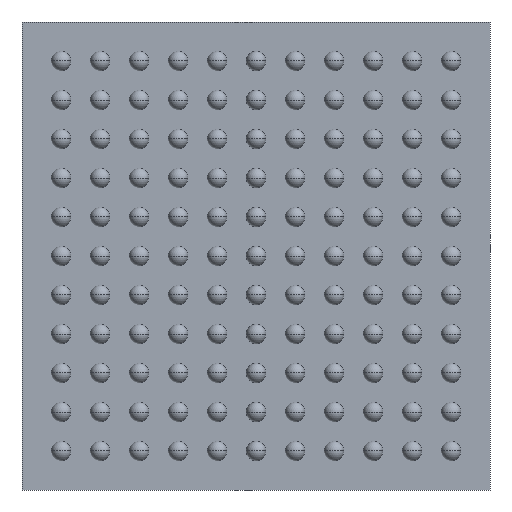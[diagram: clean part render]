
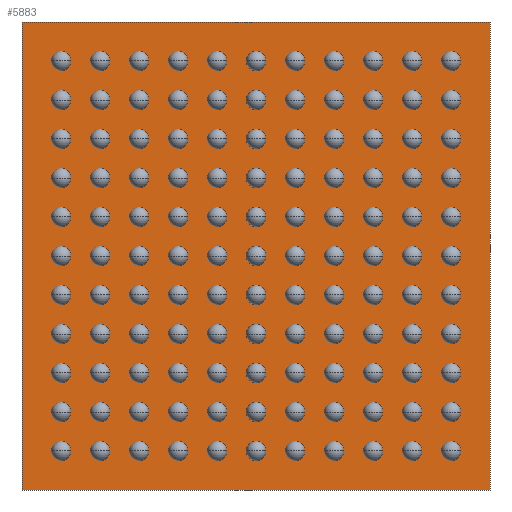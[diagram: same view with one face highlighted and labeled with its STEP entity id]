
A CAD part, front view. The second image highlights one B-rep face of the part: STEP entity #5883.
In plain terms, the highlighted planar face has unit normal (0, -1, 0).
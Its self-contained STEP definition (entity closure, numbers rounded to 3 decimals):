
#5736 = CARTESIAN_POINT ( 'NONE',  ( 3., 0.2, 3. ) ) ;
#5737 = CARTESIAN_POINT ( 'NONE',  ( 3., 0.2, -3. ) ) ;
#5740 = CARTESIAN_POINT ( 'NONE',  ( -3., 0.2, -3. ) ) ;
#5742 = CARTESIAN_POINT ( 'NONE',  ( -3., 0.2, 3. ) ) ;
#5744 = VERTEX_POINT ( 'NONE', #5736 ) ;
#5745 = VERTEX_POINT ( 'NONE', #5737 ) ;
#5748 = VERTEX_POINT ( 'NONE', #5740 ) ;
#5750 = VERTEX_POINT ( 'NONE', #5742 ) ;
#5752 = CARTESIAN_POINT ( 'NONE',  ( 3., 0.2, 3. ) ) ;
#5753 = DIRECTION ( 'NONE',  ( 0., 0., -1. ) ) ;
#5754 = VECTOR ( 'NONE', #5753, 1000. ) ;
#5755 = LINE ( 'NONE', #5752, #5754 ) ;
#5768 = CARTESIAN_POINT ( 'NONE',  ( -3., 0.2, -3. ) ) ;
#5769 = DIRECTION ( 'NONE',  ( -1., 0., 0. ) ) ;
#5770 = VECTOR ( 'NONE', #5769, 1000. ) ;
#5771 = LINE ( 'NONE', #5768, #5770 ) ;
#5780 = CARTESIAN_POINT ( 'NONE',  ( -3., 0.2, 3. ) ) ;
#5781 = DIRECTION ( 'NONE',  ( 0., 0., 1. ) ) ;
#5782 = VECTOR ( 'NONE', #5781, 1000. ) ;
#5783 = LINE ( 'NONE', #5780, #5782 ) ;
#5792 = CARTESIAN_POINT ( 'NONE',  ( -3., 0.2, 3. ) ) ;
#5793 = DIRECTION ( 'NONE',  ( 1., 0., 0. ) ) ;
#5794 = VECTOR ( 'NONE', #5793, 1000. ) ;
#5795 = LINE ( 'NONE', #5792, #5794 ) ;
#5800 = EDGE_CURVE ( 'NONE', #5744, #5745, #5755, .T. ) ;
#5804 = EDGE_CURVE ( 'NONE', #5745, #5748, #5771, .T. ) ;
#5807 = EDGE_CURVE ( 'NONE', #5748, #5750, #5783, .T. ) ;
#5810 = EDGE_CURVE ( 'NONE', #5750, #5744, #5795, .T. ) ;
#5832 = ORIENTED_EDGE ( 'NONE', *, *, #5800, .F. ) ;
#5833 = ORIENTED_EDGE ( 'NONE', *, *, #5810, .F. ) ;
#5834 = ORIENTED_EDGE ( 'NONE', *, *, #5807, .F. ) ;
#5835 = ORIENTED_EDGE ( 'NONE', *, *, #5804, .F. ) ;
#5841 = EDGE_LOOP ( 'NONE', ( #5832, #5833, #5834, #5835 ) ) ;
#5847 = FACE_OUTER_BOUND ( 'NONE', #5841, .T. ) ;
#5868 = CARTESIAN_POINT ( 'NONE',  ( 0., 0.2, 0. ) ) ;
#5869 = DIRECTION ( 'NONE',  ( 0., -1., 0. ) ) ;
#5870 = DIRECTION ( 'NONE',  ( 0., 0., -1. ) ) ;
#5871 = AXIS2_PLACEMENT_3D ( 'NONE', #5868, #5869, #5870 ) ;
#5882 = PLANE ( 'NONE', #5871 ) ;
#5883 = ADVANCED_FACE ( 'NONE', ( #5847 ), #5882, .T. ) ;
